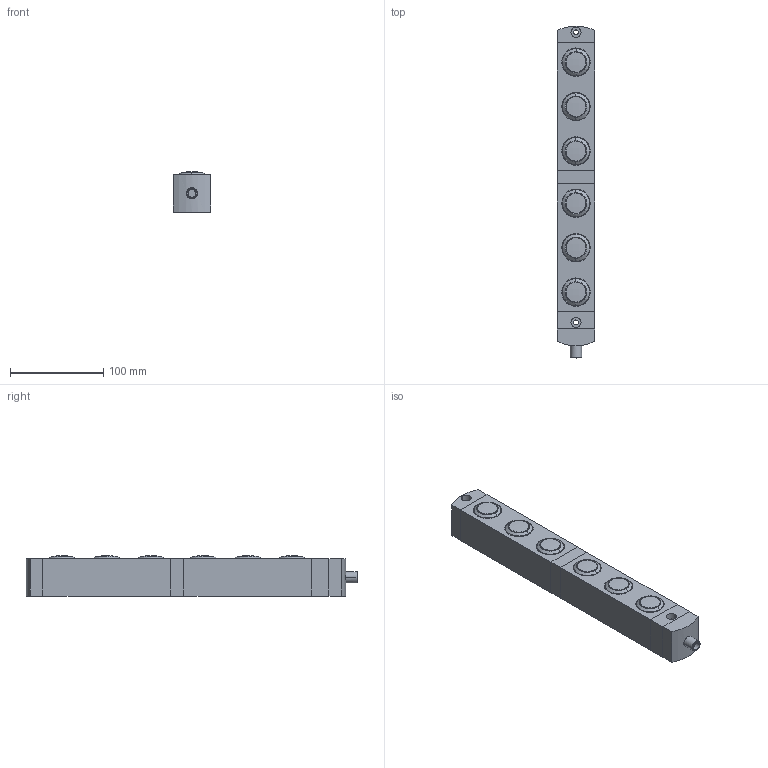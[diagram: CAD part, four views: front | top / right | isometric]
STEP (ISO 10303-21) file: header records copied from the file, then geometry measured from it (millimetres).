
FILE_DESCRIPTION (( 'STEP AP203' ), '1' );
FILE_NAME ('ZF_STEP_BN_AC6EA09.STEP', '2025-11-14T09:11:42', ( '' ), ( '' ), 'SwSTEP 2.0', 'SolidWorks 2023', '' );
FILE_SCHEMA (( 'CONFIG_CONTROL_DESIGN' ));
Length unit declared in the file: millimetre
Products named in the file (9): ZF_STEP_BN_AC6EA09; Pulsante rasato_3DWeb_27121 bianco; Pizzato_11135; Pizzato_11133; Connetttore M12 assiale; Pizzato_11144; ZF_STEP_VN_NG-AC27121; Pizzato_3dispositivi; Connetttore M12 assiale_M12 assiale
Assembly tree (14 placements, depth 3):
  ZF_STEP_BN_AC6EA09
    Pizzato_11144
    Pizzato_11135
    Pizzato_3dispositivi  x2
    Pizzato_11133
    Connetttore M12 assiale
      Connetttore M12 assiale_M12 assiale
    ZF_STEP_VN_NG-AC27121  x6
      Pulsante rasato_3DWeb_27121 bianco
Bounding box: 40 x 355.1 x 42.94 mm (x, y, z)
Volume: 557825 mm3; surface area: 97519.4 mm2
Topology: 12 solids, 12 shells, 485 faces, 1176 edges, 788 vertices
Faces by surface type: plane 181, cylinder 154, bspline 78, cone 72
Entity records: 5952 total; most frequent: CARTESIAN_POINT 1320, DIRECTION 788, ORIENTED_EDGE 694, EDGE_CURVE 347, AXIS2_PLACEMENT_3D 304, VERTEX_POINT 232, LINE 180, VECTOR 180
